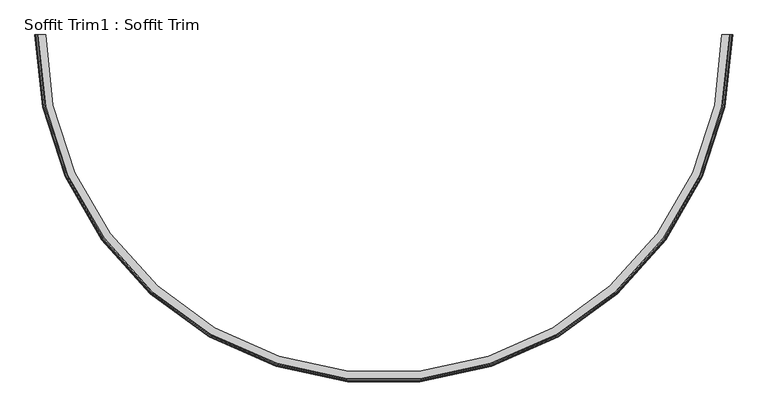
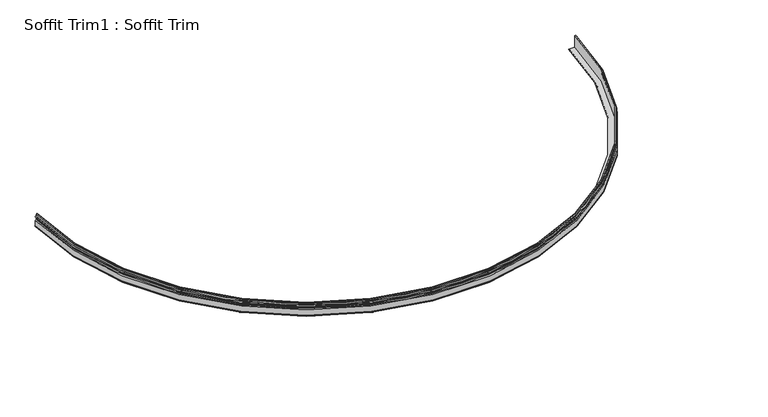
"""IFC4 building model written with IfcOpenShell, lengths in millimetres: furniture geometry, Soffit Trim1 : Soffit Trim."""

from ifc_helpers import new_model, si_unit, point, frame, origin, place, context, project, spatial, polyline, circle_curve, ellipse_curve, trimmed, source, transform, mapped, element, save
from ifc_brep_helpers import plane_surface, cylinder_surface, revolved_surface, advanced_brep


def soffit_trim1_soffit_trim_7a3ff41f(model_context):
    return source(origin(), model_context, "Body", "AdvancedBrep", [
        advanced_brep(
        [(21305.8311877, 9221.7875, 3257.55), (21305.8311877, 9221.7875, 3048.0), (21404.8009316, 9221.7875, 3048.0), (21404.8009316, 9221.7875, 3042.9884939), (21398.4509316, 9221.7875, 3042.9884939), (21384.9805474, 9221.7875, 3029.5181097), (21384.9805474, 9221.7875, 3023.1681097), (21282.5867974, 9221.7875, 3023.1681097), (21282.5867974, 9221.7875, 3029.5181097), (21269.1164132, 9221.7875, 3042.9884939), (21265.1476632, 9221.7875, 3042.9884939), (21265.1476632, 9221.7875, 3048.0), (21270.6805474, 9221.7875, 3048.0), (21270.6805474, 9221.7875, 3146.1993597), (21284.1509316, 9221.7875, 3159.6697439), (21284.1509316, 9221.7875, 3178.7197439), (21284.1509316, 9221.7875, 3197.7697439), (21284.1509316, 9221.7875, 3216.8197439), (21284.1509316, 9221.7875, 3248.5697439), (21293.1311877, 9221.7875, 3257.55), (30420.7863638, 9221.7875, 3257.55), (30433.4863638, 9221.7875, 3257.55), (30442.4666199, 9221.7875, 3248.5697439), (30442.4666199, 9221.7875, 3216.8197439), (30442.4666199, 9221.7875, 3197.7697439), (30442.4666199, 9221.7875, 3178.7197439), (30442.4666199, 9221.7875, 3159.6697439), (30455.9370041, 9221.7875, 3146.1993597), (30455.9370041, 9221.7875, 3048.0), (30461.4698883, 9221.7875, 3048.0), (30461.4698883, 9221.7875, 3042.9884939), (30457.5011383, 9221.7875, 3042.9884939), (30444.0307541, 9221.7875, 3029.5181097), (30444.0307541, 9221.7875, 3023.1681097), (30341.6370041, 9221.7875, 3023.1681097), (30341.6370041, 9221.7875, 3029.5181097), (30328.1666199, 9221.7875, 3042.9884939), (30321.8166199, 9221.7875, 3042.9884939), (30321.8166199, 9221.7875, 3048.0), (30420.7863638, 9221.7875, 3048.0)],
        [
            (0, 1),
            (1, 2),
            (2, 3),
            (3, 4),
            (4, 5, circle_curve(frame((21384.9805474, 9221.7875, 3042.9884939), z_axis=(0.0, 1.0, 0.0), x_axis=(-1.0, 0.0, 0.0)), 13.4703842)),
            (5, 6),
            (6, 7),
            (7, 8),
            (8, 9, circle_curve(frame((21282.5867974, 9221.7875, 3042.9884939), z_axis=(0.0, 1.0, 0.0), x_axis=(1.0, 0.0, 0.0)), 13.4703842)),
            (9, 10),
            (10, 11),
            (11, 12),
            (12, 13),
            (13, 14),
            (14, 15),
            (15, 16, circle_curve(frame((21284.1509316, 9221.7875, 3188.2447439), z_axis=(0.0, -1.0, 0.0), x_axis=(-1.0, 0.0, 0.0)), 9.525)),
            (16, 17, circle_curve(frame((21284.1509316, 9221.7875, 3207.2947439), z_axis=(0.0, 1.0, 0.0), x_axis=(-1.0, 0.0, 0.0)), 9.525)),
            (17, 18),
            (18, 19),
            (19, 0),
            (20, 21),
            (21, 22),
            (22, 23),
            (23, 24, circle_curve(frame((30442.4666199, 9221.7875, 3207.2947439), z_axis=(0.0, 1.0, 0.0), x_axis=(1.0, 0.0, 0.0)), 9.525)),
            (24, 25, circle_curve(frame((30442.4666199, 9221.7875, 3188.2447439), z_axis=(0.0, -1.0, 0.0), x_axis=(1.0, 0.0, 0.0)), 9.525)),
            (25, 26),
            (26, 27),
            (27, 28),
            (28, 29),
            (29, 30),
            (30, 31),
            (31, 32, circle_curve(frame((30444.0307541, 9221.7875, 3042.9884939), z_axis=(0.0, 1.0, 0.0), x_axis=(-1.0, 0.0, 0.0)), 13.4703842)),
            (32, 33),
            (33, 34),
            (34, 35),
            (35, 36, circle_curve(frame((30341.6370041, 9221.7875, 3042.9884939), z_axis=(0.0, 1.0, 0.0), x_axis=(1.0, 0.0, 0.0)), 13.4703842)),
            (36, 37),
            (37, 38),
            (38, 39),
            (39, 20),
            (39, 1, circle_curve(frame((25863.3087757, 9221.7875, 3048.0), z_axis=(0.0, 0.0, -1.0), x_axis=(-1.0, 0.0, 0.0)), 4557.4775881)),
            (0, 20, circle_curve(frame((25863.3087757, 9221.7875, 3257.55), z_axis=(0.0, 0.0, 1.0), x_axis=(-1.0, 0.0, 0.0)), 4557.4775881)),
            (38, 2, circle_curve(frame((25863.3087757, 9221.7875, 3048.0), z_axis=(0.0, 0.0, -1.0), x_axis=(-1.0, 0.0, 0.0)), 4458.5078442)),
            (37, 3, circle_curve(frame((25863.3087757, 9221.7875, 3042.9884939), z_axis=(0.0, 0.0, -1.0), x_axis=(-1.0, 0.0, 0.0)), 4458.5078442)),
            (36, 4, circle_curve(frame((25863.3087757, 9221.7875, 3042.9884939), z_axis=(0.0, 0.0, -1.0), x_axis=(-1.0, 0.0, 0.0)), 4464.8578442)),
            (35, 5, circle_curve(frame((25863.3087757, 9221.7875, 3029.5181097), z_axis=(0.0, 0.0, -1.0), x_axis=(-1.0, 0.0, 0.0)), 4478.3282284)),
            (34, 6, circle_curve(frame((25863.3087757, 9221.7875, 3023.1681097), z_axis=(0.0, 0.0, -1.0), x_axis=(-1.0, 0.0, 0.0)), 4478.3282284)),
            (33, 7, circle_curve(frame((25863.3087757, 9221.7875, 3023.1681097), z_axis=(0.0, 0.0, -1.0), x_axis=(-1.0, 0.0, 0.0)), 4580.7219784)),
            (32, 8, circle_curve(frame((25863.3087757, 9221.7875, 3029.5181097), z_axis=(0.0, 0.0, -1.0), x_axis=(-1.0, 0.0, 0.0)), 4580.7219784)),
            (31, 9, circle_curve(frame((25863.3087757, 9221.7875, 3042.9884939), z_axis=(0.0, 0.0, -1.0), x_axis=(-1.0, 0.0, 0.0)), 4594.1923625)),
            (30, 10, circle_curve(frame((25863.3087757, 9221.7875, 3042.9884939), z_axis=(0.0, 0.0, -1.0), x_axis=(-1.0, 0.0, 0.0)), 4598.1611125)),
            (29, 11, circle_curve(frame((25863.3087757, 9221.7875, 3048.0), z_axis=(0.0, 0.0, -1.0), x_axis=(-1.0, 0.0, 0.0)), 4598.1611125)),
            (28, 12, circle_curve(frame((25863.3087757, 9221.7875, 3048.0), z_axis=(0.0, 0.0, -1.0), x_axis=(-1.0, 0.0, 0.0)), 4592.6282284)),
            (27, 13, circle_curve(frame((25863.3087757, 9221.7875, 3146.1993597), z_axis=(0.0, 0.0, -1.0), x_axis=(-1.0, 0.0, 0.0)), 4592.6282284)),
            (26, 14, circle_curve(frame((25863.3087757, 9221.7875, 3159.6697439), z_axis=(0.0, 0.0, -1.0), x_axis=(-1.0, 0.0, 0.0)), 4579.1578442)),
            (25, 15, circle_curve(frame((25863.3087757, 9221.7875, 3178.7197439), z_axis=(0.0, 0.0, -1.0), x_axis=(-1.0, 0.0, 0.0)), 4579.1578442)),
            (24, 16, circle_curve(frame((25863.3087757, 9221.7875, 3197.7697439), z_axis=(0.0, 0.0, -1.0), x_axis=(-1.0, 0.0, 0.0)), 4579.1578442)),
            (23, 17, circle_curve(frame((25863.3087757, 9221.7875, 3216.8197439), z_axis=(0.0, 0.0, -1.0), x_axis=(-1.0, 0.0, 0.0)), 4579.1578442)),
            (22, 18, circle_curve(frame((25863.3087757, 9221.7875, 3248.5697439), z_axis=(0.0, 0.0, -1.0), x_axis=(-1.0, 0.0, 0.0)), 4579.1578442)),
            (21, 19, circle_curve(frame((25863.3087757, 9221.7875, 3257.55), z_axis=(0.0, 0.0, -1.0), x_axis=(-1.0, 0.0, 0.0)), 4570.1775881)),
        ],
        [
            plane_surface(frame((21305.8311877, 9221.7875, 3048.0), z_axis=(0.0, 1.0, 0.0), x_axis=(0.0, 0.0, -1.0))),
            plane_surface(frame((30420.7863638, 9221.7875, 3048.0), z_axis=(0.0, 1.0, 0.0), x_axis=(0.0, 0.0, -1.0))),
            revolved_surface(polyline([(21305.8311876, 9221.7875, 3257.55), (21305.8311876, 9221.7875, 3048.0)]), (25863.3087757, 9221.7875, 3048.0), (0.0, 0.0, 1.0)),
            plane_surface(frame((25863.3087757, 9221.7875, 3048.0), z_axis=(0.0, 0.0, 1.0), x_axis=(-1.0, 0.0, 0.0))),
            revolved_surface(polyline([(21404.800931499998, 9221.7875, 3048.0), (21404.800931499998, 9221.7875, 3042.9884939)]), (25863.3087757, 9221.7875, 3048.0), (0.0, 0.0, 1.0)),
            plane_surface(frame((25863.3087757, 9221.7875, 3042.9884939), z_axis=(0.0, 0.0, -1.0), x_axis=(-1.0, 0.0, 0.0))),
            revolved_surface(trimmed(ellipse_curve(frame((21384.9805474, 9221.7875, 3042.9884939), z_axis=(0.0, 1.0, 0.0), x_axis=(-1.0, 0.0, 0.0)), 13.4703842, 13.4703842), [point((21398.4509316, 9221.7875, 3042.9884939))], [point((21384.9805474, 9221.7875, 3029.5181097))], True, "CARTESIAN"), (25863.3087757, 9221.7875, 3048.0), (0.0, 0.0, 1.0)),
            revolved_surface(polyline([(21384.9805473, 9221.7875, 3029.5181097), (21384.9805473, 9221.7875, 3023.1681097)]), (25863.3087757, 9221.7875, 3048.0), (0.0, 0.0, 1.0)),
            plane_surface(frame((25863.3087757, 9221.7875, 3023.1681097), z_axis=(0.0, 0.0, -1.0), x_axis=(-1.0, 0.0, 0.0))),
            cylinder_surface(frame((25863.3087757, 9221.7875, 3048.0), z_axis=(0.0, 0.0, 1.0), x_axis=(-1.0, 0.0, 0.0)), 4580.7219784),
            revolved_surface(trimmed(ellipse_curve(frame((21282.5867974, 9221.7875, 3042.9884939), z_axis=(0.0, 1.0, 0.0), x_axis=(1.0, 0.0, 0.0)), 13.4703842, 13.4703842), [point((21282.5867974, 9221.7875, 3029.5181097))], [point((21269.1164132, 9221.7875, 3042.9884939))], True, "CARTESIAN"), (25863.3087757, 9221.7875, 3048.0), (0.0, 0.0, 1.0)),
            cylinder_surface(frame((25863.3087757, 9221.7875, 3048.0), z_axis=(0.0, 0.0, 1.0), x_axis=(-1.0, 0.0, 0.0)), 4598.1611125),
            cylinder_surface(frame((25863.3087757, 9221.7875, 3048.0), z_axis=(0.0, 0.0, 1.0), x_axis=(-1.0, 0.0, 0.0)), 4592.6282284),
            revolved_surface(polyline([(21270.6805474, 9221.7875, 3146.1993597), (21284.1509316, 9221.7875, 3159.6697439)]), (25863.3087757, 9221.7875, 3048.0), (0.0, 0.0, 1.0)),
            cylinder_surface(frame((25863.3087757, 9221.7875, 3048.0), z_axis=(0.0, 0.0, 1.0), x_axis=(-1.0, 0.0, 0.0)), 4579.1578442),
            revolved_surface(trimmed(ellipse_curve(frame((21284.1509316, 9221.7875, 3188.2447439), z_axis=(0.0, -1.0, 0.0), x_axis=(-1.0, 0.0, 0.0)), 9.525, 9.525), [point((21284.1509316, 9221.7875, 3178.7197439))], [point((21284.1509316, 9221.7875, 3197.7697439))], True, "CARTESIAN"), (25863.3087757, 9221.7875, 3048.0), (0.0, 0.0, 1.0)),
            revolved_surface(trimmed(ellipse_curve(frame((21284.1509316, 9221.7875, 3207.2947439), z_axis=(0.0, 1.0, 0.0), x_axis=(-1.0, 0.0, 0.0)), 9.525, 9.525), [point((21284.1509316, 9221.7875, 3197.7697439))], [point((21284.1509316, 9221.7875, 3216.8197439))], True, "CARTESIAN"), (25863.3087757, 9221.7875, 3048.0), (0.0, 0.0, 1.0)),
            revolved_surface(polyline([(21284.1509316, 9221.7875, 3248.5697439), (21293.1311877, 9221.7875, 3257.55)]), (25863.3087757, 9221.7875, 3048.0), (0.0, 0.0, 1.0)),
            plane_surface(frame((25863.3087757, 9221.7875, 3257.55), z_axis=(0.0, 0.0, 1.0), x_axis=(-1.0, 0.0, 0.0))),
        ],
        [
            (0, [[1, 2, 3, 4, 5, 6, 7, 8, 9, 10, 11, 12, 13, 14, 15, 16, 17, 18, 19, 20]]),
            (1, [[21, 22, 23, 24, 25, 26, 27, 28, 29, 30, 31, 32, 33, 34, 35, 36, 37, 38, 39, 40]]),
            (2, [[41, -1, 42, -40]]),
            (3, [[43, -2, -41, -39]]),
            (4, [[44, -3, -43, -38]]),
            (5, [[45, -4, -44, -37]]),
            (6, [[46, -5, -45, -36]]),
            (7, [[47, -6, -46, -35]]),
            (8, [[48, -7, -47, -34]]),
            (9, [[49, -8, -48, -33]]),
            (10, [[50, -9, -49, -32]]),
            (5, [[51, -10, -50, -31]]),
            (11, [[52, -11, -51, -30]]),
            (3, [[53, -12, -52, -29]]),
            (12, [[54, -13, -53, -28]]),
            (13, [[55, -14, -54, -27]]),
            (14, [[56, -15, -55, -26]]),
            (15, [[57, -16, -56, -25]]),
            (16, [[58, -17, -57, -24]]),
            (14, [[59, -18, -58, -23]]),
            (17, [[60, -19, -59, -22]]),
            (18, [[-42, -20, -60, -21]]),
        ],
    ),
    ])


if __name__ == "__main__":
    model = new_model("IFC4")
    model_context = context("Model", 3, world=origin())
    ifc_project = project(units=[si_unit("LENGTHUNIT", "METRE", prefix="MILLI")], contexts=[model_context])
    site = spatial("IfcSite", under=ifc_project)
    building = spatial("IfcBuilding", under=site)
    placement = place(None, origin())
    soffit_trim1_soffit_trim_shape = soffit_trim1_soffit_trim_7a3ff41f(model_context)
    element("IfcFurniture", 1, ObjectType="Soffit Trim1 : Soffit Trim", at=placement, inside=building, context=model_context, shape_type="MappedRepresentation", body=[
        mapped(soffit_trim1_soffit_trim_shape, transform((0.0, 0.0, 0.0), x_axis=(1.0, 0.0, 0.0), y_axis=(0.0, 1.0, 0.0), z_axis=(0.0, 0.0, 1.0))),
    ])
    save(model, "model.ifc")
